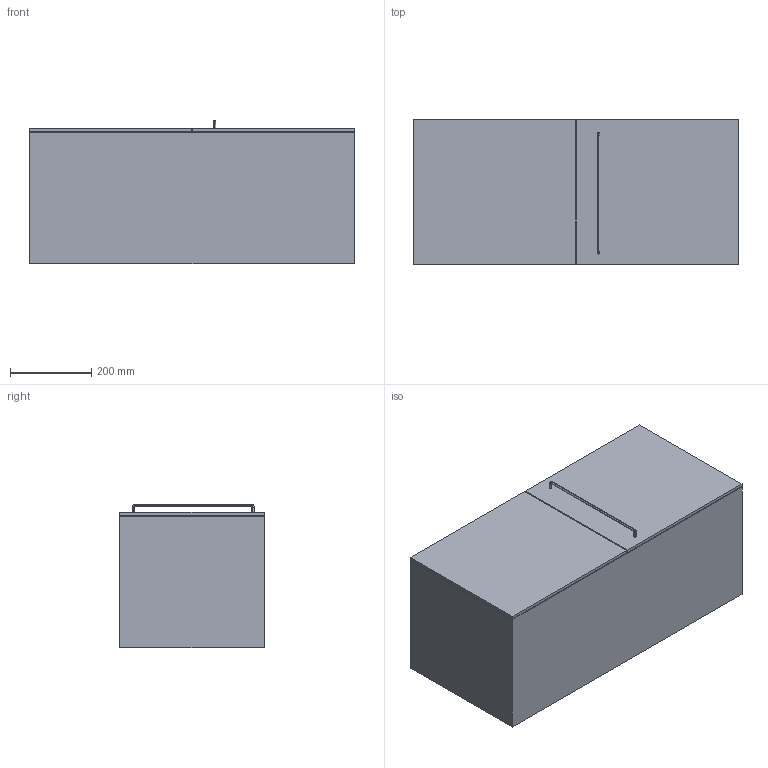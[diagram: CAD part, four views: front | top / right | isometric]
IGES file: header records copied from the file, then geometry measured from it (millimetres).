
Start section: SolidWorks IGES file using analytic representation for surfaces
Global section: file name: C:\Users\hcaixa\Documents\Gabinete Tecnico\72_produtos cliente\Timsteel\Estantes\Estantes  Q16\Q16 versão catalogo\Assemblys\IGS\Novas Peças\Armario Fechado 800.IGS; native system: SolidWorks 2014; preprocessor: SolidWorks 2014; author: hcaixa; date: 190704.115223; units: millimetre
Bounding box: 800 x 356 x 353 mm (x, y, z)
Surface area: 1916490.5 mm2 (no closed solid volume)
Topology: 0 solids, 0 shells, 38 faces, 228 edges, 228 vertices
Faces by surface type: bspline 26, revolution 12
